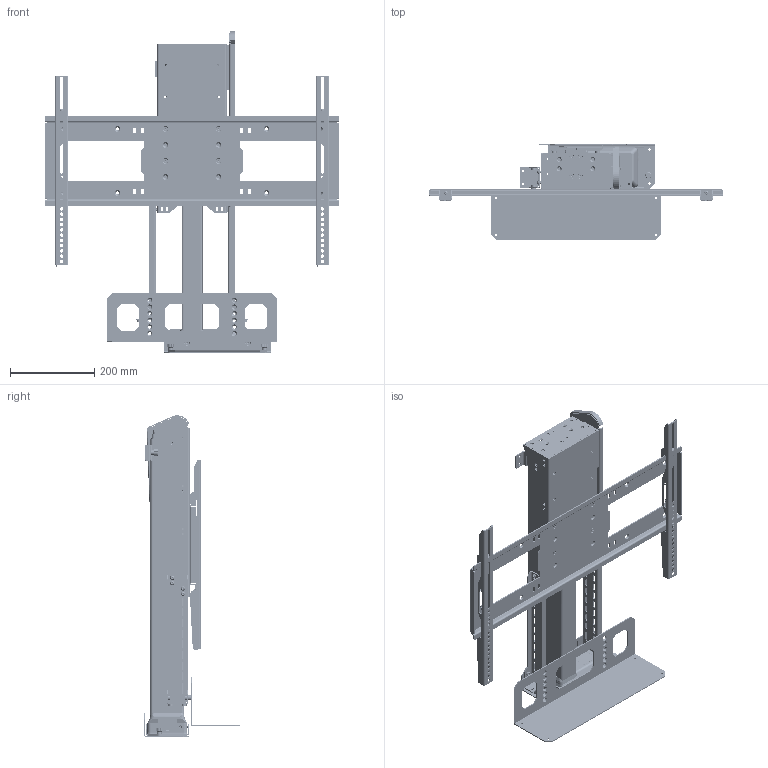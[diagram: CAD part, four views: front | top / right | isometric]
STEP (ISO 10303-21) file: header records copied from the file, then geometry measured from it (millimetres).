
FILE_DESCRIPTION(/* description */ ('STEP AP242','CAx-IF Rec.Pracs.---Representation and Presentation of Product Manufacturing Information (PMI)---4.0---2014-10-13','CAx-IF Rec.Pracs.---3D Tessellated Geometry---0.4---2014-09-14','2;1'),/* implementation_level */ '2;1');
FILE_NAME(/* name */ '63f8fa95155145463c3984ba',/* time_stamp */ '2023-02-24T17:57:46+00:00',/* author */ (''),/* organization */ (''),/* preprocessor_version */ 'ST-DEVELOPER v18.102',/* originating_system */ ' ',/* authorisation */ ' ');
FILE_SCHEMA (('AP242_MANAGED_MODEL_BASED_3D_ENGINEERING_MIM_LF { 1 0 10303 442 1 1 4 }'));
Products named in the file (48): L-65/s; Hex socket countersunk head screw M6x1 x 16; Hex socket countersunk head screw M6x1 x 12; Socket button head screw M6x1 x 12; Socket button head screw M6x1 x 8; ULS-NX-037 -- ULS HTG Adapter Plate; WDS8151-215; OLD_ULS-NX-024 - ULS Hinged Top Guide; ULS-NX-011 - ULS ACCESSORY MOUNTING BRACKET SPACER <2>; ULS-NX-011 - UL ACCESSORY MOUNTING BRACKET SPACER; PRODUCT_NAME_1; ULS Accessories <1>; 1/4in Spacer; ULS-NX-010 - ULS ACCESSORY MOUNTING BRACKET W PEMS <2>; PEM CLS-M6-2  ; ULS-NX-010 - UL ACCESSORY MOUNTING BRACKET; NEX-LM-013 - CENTER CHANNEL MOUNT - REV B; ULS-NX-010 - ULS ACCESSORY MOUNTING BRACKET W PEMS <1>; ULS-NX-108 - ULS SCREEN SUPPORT WELDMENT <1>; PEM CLS-M6-1  ; F-M6-3 M6 PEM NUT; ULS-NX-008 - UL SCREEN SUPPORT SHELL; ULS-NX-009 - ULS SCREEN SUPPORT TOP PLATE <1>; ULS-NX-009 - UL SCREEN SUPPORT TOP PLATE; SBP & VMB <1>; PZ Pan head screw M5x0.80 x 25; ULS-NX-017 - UL SCREEN BACK PLATE; ULS-NX-118 - UL VMB WELDMENT <2>; Socket button head cap screw #6-32 x 0.188; VMB Washer; ULS-NX-019 - UL LEVEL ADJUSTMENT PLATE; PEM BSO-632-10  ZI; 90107A012; ULS-NX-018 - UL VERICAL MOUNTING BAR; ULS-NX-020 - UL SCREEN LOCK; ULS-NX-118 - UL VMB WELDMENT <1>; L-65 Lower Sub Assembly <1>; ULS-NX-002 - ULS QUICK RELEASE LC MOUNT; ULS-NX-004 - ULS COLUMN CLAMP; ULS-NX-001 - ULS QUICK RELEASE BASE MOUNT W/ PEMS <1>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
Assembly tree (140 placements, depth 4):
  L-65/s
    Hex socket countersunk head screw M6x1 x 16  x4
    Hex socket countersunk head screw M6x1 x 12  x10
    Socket button head screw M6x1 x 12  x8
    Socket button head screw M6x1 x 8  x4
    ULS-NX-037 -- ULS HTG Adapter Plate
    WDS8151-215  x4
    OLD_ULS-NX-024 - ULS Hinged Top Guide
    ULS-NX-011 - ULS ACCESSORY MOUNTING BRACKET SPACER <2>
      ULS-NX-011 - UL ACCESSORY MOUNTING BRACKET SPACER
      PRODUCT_NAME_1  x2
    ULS Accessories <1>
      1/4in Spacer  x2
      ULS-NX-010 - ULS ACCESSORY MOUNTING BRACKET W PEMS <2>
        PEM CLS-M6-2    x4
        ULS-NX-010 - UL ACCESSORY MOUNTING BRACKET
      NEX-LM-013 - CENTER CHANNEL MOUNT - REV B
      ULS-NX-010 - ULS ACCESSORY MOUNTING BRACKET W PEMS <1>
        PEM CLS-M6-2    x4
        ULS-NX-010 - UL ACCESSORY MOUNTING BRACKET
    ULS-NX-108 - ULS SCREEN SUPPORT WELDMENT <1>
      PEM CLS-M6-1    x32
      F-M6-3 M6 PEM NUT
      ULS-NX-008 - UL SCREEN SUPPORT SHELL
      ULS-NX-009 - ULS SCREEN SUPPORT TOP PLATE <1>
        PEM CLS-M6-1    x4
        ULS-NX-009 - UL SCREEN SUPPORT TOP PLATE
    SBP & VMB <1>
      PZ Pan head screw M5x0.80 x 25  x2
      ULS-NX-017 - UL SCREEN BACK PLATE
      ULS-NX-118 - UL VMB WELDMENT <2>
        Socket button head cap screw #6-32 x 0.188  x2
        VMB Washer  x4
        ULS-NX-019 - UL LEVEL ADJUSTMENT PLATE
        PEM BSO-632-10  ZI  x2
        90107A012  x2
        ULS-NX-018 - UL VERICAL MOUNTING BAR
        ULS-NX-020 - UL SCREEN LOCK
      ULS-NX-118 - UL VMB WELDMENT <1>
        VMB Washer  x4
        Socket button head cap screw #6-32 x 0.188  x2
        PEM BSO-632-10  ZI  x2
        ULS-NX-020 - UL SCREEN LOCK
        ULS-NX-018 - UL VERICAL MOUNTING BAR
        90107A012  x2
        ULS-NX-019 - UL LEVEL ADJUSTMENT PLATE
    L-65 Lower Sub Assembly <1>
      ULS-NX-002 - ULS QUICK RELEASE LC MOUNT
      ULS-NX-004 - ULS COLUMN CLAMP
      ULS-NX-001 - ULS QUICK RELEASE BASE MOUNT W/ PEMS <1>
        PEM FHS-M6-12    x2
        ULS-NX-001 - ULS QUICK RELEASE BASE MOUNT
      ULS-NX-022 - ULS REAR SUPPORT <1>
        ULS-NX-022 - ULS REAR SUPPORT
        PEM FHS-M6-12    x2
      DL16XL_STANDART_ASM <1>
        L45 LC Inner Profile
        L45 LC Motor Housing
        L45 LC Middle Profile
Bounding box: 698.5 x 228.39 x 764.98 mm (x, y, z)
Volume: 8711959.4 mm3; surface area: 1790503.3 mm2
Topology: 127 solids, 127 shells, 9760 faces, 26075 edges, 16902 vertices
Faces by surface type: plane 6853, cylinder 1694, cone 577, bspline 430, torus 176, sphere 30
Full cylindrical faces by diameter (mm): 2.642 x4, 3.505 x4, 4.6 x2, 4.917 x45, 4.978 x4, 5 x20, 5.026 x4, 5.08 x4, 5.277 x8, 5.3 x6, 5.385 x12, 5.41 x8, 5.486 x4, 5.499 x2, 5.6 x4, 5.613 x6, 5.944 x4, 5.994 x2, 6 x44, 6.095 x2, 6.35 x16, 6.401 x2, 6.528 x4, 6.6 x4, 6.604 x4, 6.655 x4, 6.976 x1, 7.112 x2, 7.19 x2, 7.62 x2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
Entity records: 97221 total; most frequent: CARTESIAN_POINT 18867, DIRECTION 15302, ORIENTED_EDGE 15022, EDGE_CURVE 7511, AXIS2_PLACEMENT_3D 5156, LINE 4990, VECTOR 4990, VERTEX_POINT 4982
